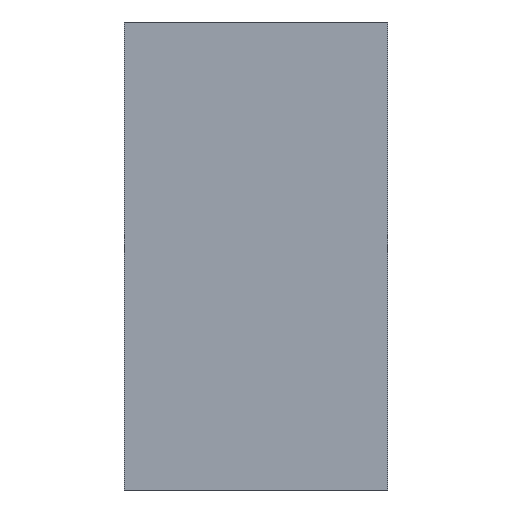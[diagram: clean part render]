
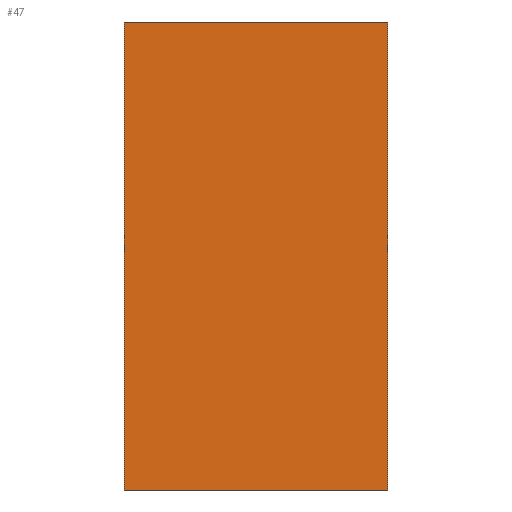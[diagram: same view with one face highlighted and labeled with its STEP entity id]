
A CAD part, front view. The second image highlights one B-rep face of the part: STEP entity #47.
In plain terms, the highlighted planar face has unit normal (0, -1, 0).
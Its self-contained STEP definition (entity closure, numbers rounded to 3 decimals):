
#4 = CARTESIAN_POINT ( 'NONE',  ( 0., 0., 905. ) ) ;
#21 = LINE ( 'NONE', #4, #241 ) ;
#24 = LINE ( 'NONE', #229, #226 ) ;
#40 = CARTESIAN_POINT ( 'NONE',  ( 510., 0., 0. ) ) ;
#41 = DIRECTION ( 'NONE',  ( 0., 1., 0. ) ) ;
#45 = VERTEX_POINT ( 'NONE', #62 ) ;
#47 = ADVANCED_FACE ( 'NONE', ( #158 ), #180, .F. ) ;
#50 = LINE ( 'NONE', #160, #142 ) ;
#62 = CARTESIAN_POINT ( 'NONE',  ( 0., 0., 0. ) ) ;
#65 = VECTOR ( 'NONE', #165, 1000. ) ;
#67 = EDGE_CURVE ( 'NONE', #73, #222, #21, .T. ) ;
#73 = VERTEX_POINT ( 'NONE', #176 ) ;
#81 = ORIENTED_EDGE ( 'NONE', *, *, #136, .F. ) ;
#90 = DIRECTION ( 'NONE',  ( 1., 0., 0. ) ) ;
#108 = DIRECTION ( 'NONE',  ( 0., 0., -1. ) ) ;
#115 = AXIS2_PLACEMENT_3D ( 'NONE', #135, #41, #277 ) ;
#121 = VERTEX_POINT ( 'NONE', #40 ) ;
#135 = CARTESIAN_POINT ( 'NONE',  ( 0., 0., 905. ) ) ;
#136 = EDGE_CURVE ( 'NONE', #222, #121, #24, .T. ) ;
#139 = ORIENTED_EDGE ( 'NONE', *, *, #67, .F. ) ;
#142 = VECTOR ( 'NONE', #159, 1000. ) ;
#158 = FACE_OUTER_BOUND ( 'NONE', #298, .T. ) ;
#159 = DIRECTION ( 'NONE',  ( 0., 0., -1. ) ) ;
#160 = CARTESIAN_POINT ( 'NONE',  ( 0., 0., 905. ) ) ;
#165 = DIRECTION ( 'NONE',  ( 1., 0., 0. ) ) ;
#176 = CARTESIAN_POINT ( 'NONE',  ( 0., 0., 905. ) ) ;
#179 = ORIENTED_EDGE ( 'NONE', *, *, #280, .T. ) ;
#180 = PLANE ( 'NONE',  #115 ) ;
#184 = LINE ( 'NONE', #283, #65 ) ;
#192 = ORIENTED_EDGE ( 'NONE', *, *, #258, .T. ) ;
#222 = VERTEX_POINT ( 'NONE', #266 ) ;
#226 = VECTOR ( 'NONE', #108, 1000. ) ;
#229 = CARTESIAN_POINT ( 'NONE',  ( 510., 0., 905. ) ) ;
#241 = VECTOR ( 'NONE', #90, 1000. ) ;
#258 = EDGE_CURVE ( 'NONE', #45, #121, #184, .T. ) ;
#266 = CARTESIAN_POINT ( 'NONE',  ( 510., 0., 905. ) ) ;
#277 = DIRECTION ( 'NONE',  ( 0., 0., 1. ) ) ;
#280 = EDGE_CURVE ( 'NONE', #73, #45, #50, .T. ) ;
#283 = CARTESIAN_POINT ( 'NONE',  ( 0., 0., 0. ) ) ;
#298 = EDGE_LOOP ( 'NONE', ( #192, #81, #139, #179 ) ) ;
